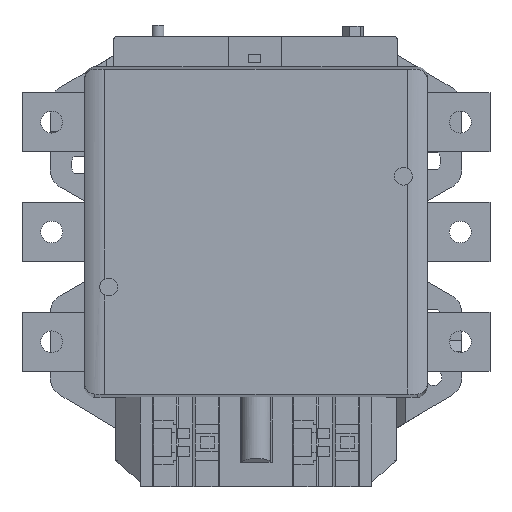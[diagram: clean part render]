
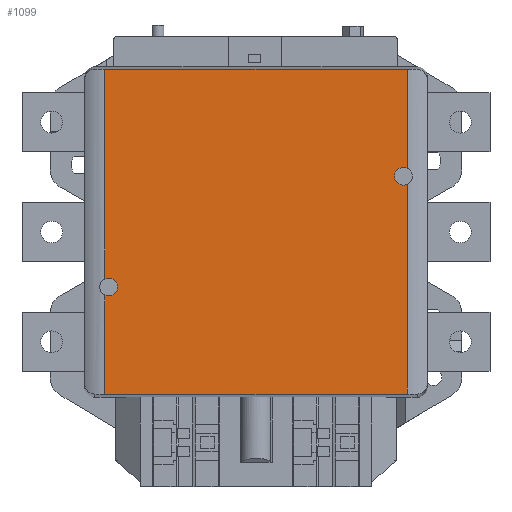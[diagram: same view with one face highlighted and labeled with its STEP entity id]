
A CAD part, top view. The second image highlights one B-rep face of the part: STEP entity #1099.
In plain terms, the highlighted planar face has unit normal (0, 0, 1).
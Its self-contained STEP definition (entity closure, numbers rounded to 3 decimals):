
#408=FACE_OUTER_BOUND('',#2527,.T.);
#1099=ADVANCED_FACE('',(#408),#1840,.T.);
#1840=PLANE('',#14141);
#2527=EDGE_LOOP('',(#3935,#3936,#3937,#3938,#3939,#3940,#3941,#3942));
#3360=CIRCLE('',#14139,4.5);
#3361=CIRCLE('',#14140,4.5);
#3935=ORIENTED_EDGE('',*,*,#9204,.F.);
#3936=ORIENTED_EDGE('',*,*,#9205,.T.);
#3937=ORIENTED_EDGE('',*,*,#9206,.F.);
#3938=ORIENTED_EDGE('',*,*,#9207,.T.);
#3939=ORIENTED_EDGE('',*,*,#9208,.F.);
#3940=ORIENTED_EDGE('',*,*,#9209,.T.);
#3941=ORIENTED_EDGE('',*,*,#9210,.F.);
#3942=ORIENTED_EDGE('',*,*,#9211,.T.);
#7882=VERTEX_POINT('',#19363);
#7883=VERTEX_POINT('',#19364);
#7884=VERTEX_POINT('',#19366);
#7885=VERTEX_POINT('',#19368);
#7886=VERTEX_POINT('',#19370);
#7887=VERTEX_POINT('',#19372);
#7888=VERTEX_POINT('',#19374);
#7889=VERTEX_POINT('',#19376);
#9204=EDGE_CURVE('',#7882,#7883,#3360,.T.);
#9205=EDGE_CURVE('',#7882,#7884,#11155,.T.);
#9206=EDGE_CURVE('',#7885,#7884,#11156,.T.);
#9207=EDGE_CURVE('',#7885,#7886,#11157,.T.);
#9208=EDGE_CURVE('',#7887,#7886,#3361,.T.);
#9209=EDGE_CURVE('',#7887,#7888,#11158,.T.);
#9210=EDGE_CURVE('',#7889,#7888,#11159,.T.);
#9211=EDGE_CURVE('',#7889,#7883,#11160,.T.);
#11155=LINE('',#19365,#12706);
#11156=LINE('',#19367,#12707);
#11157=LINE('',#19369,#12708);
#11158=LINE('',#19373,#12709);
#11159=LINE('',#19375,#12710);
#11160=LINE('',#19377,#12711);
#12706=VECTOR('',#15483,1.);
#12707=VECTOR('',#15484,1.);
#12708=VECTOR('',#15485,1.);
#12709=VECTOR('',#15488,1.);
#12710=VECTOR('',#15489,1.);
#12711=VECTOR('',#15490,1.);
#14139=AXIS2_PLACEMENT_3D('',#19362,#15481,#15482);
#14140=AXIS2_PLACEMENT_3D('',#19371,#15486,#15487);
#14141=AXIS2_PLACEMENT_3D('',#19378,#15491,#15492);
#15481=DIRECTION('',(0.,0.,1.));
#15482=DIRECTION('',(-1.,0.,0.));
#15483=DIRECTION('',(0.,-1.,0.));
#15484=DIRECTION('',(-1.,0.,0.));
#15485=DIRECTION('',(0.,1.,0.));
#15486=DIRECTION('',(0.,0.,1.));
#15487=DIRECTION('',(1.,0.,0.));
#15488=DIRECTION('',(0.,1.,0.));
#15489=DIRECTION('',(1.,0.,0.));
#15490=DIRECTION('',(0.,-1.,0.));
#15491=DIRECTION('',(0.,0.,1.));
#15492=DIRECTION('',(-1.,0.,0.));
#19362=CARTESIAN_POINT('',(-74.5,-28.,0.));
#19363=CARTESIAN_POINT('',(-76.529,-32.016,0.));
#19364=CARTESIAN_POINT('',(-76.529,-23.984,0.));
#19365=CARTESIAN_POINT('',(-76.529,0.,0.));
#19366=CARTESIAN_POINT('',(-76.529,-82.077,0.));
#19367=CARTESIAN_POINT('',(300.,-82.077,0.));
#19368=CARTESIAN_POINT('',(76.529,-82.077,0.));
#19369=CARTESIAN_POINT('',(76.529,0.,0.));
#19370=CARTESIAN_POINT('',(76.529,23.984,0.));
#19371=CARTESIAN_POINT('',(74.5,28.,0.));
#19372=CARTESIAN_POINT('',(76.529,32.016,0.));
#19373=CARTESIAN_POINT('',(76.529,0.,0.));
#19374=CARTESIAN_POINT('',(76.529,82.077,0.));
#19375=CARTESIAN_POINT('',(300.,82.077,0.));
#19376=CARTESIAN_POINT('',(-76.529,82.077,0.));
#19377=CARTESIAN_POINT('',(-76.529,0.,0.));
#19378=CARTESIAN_POINT('',(0.,0.,0.));
